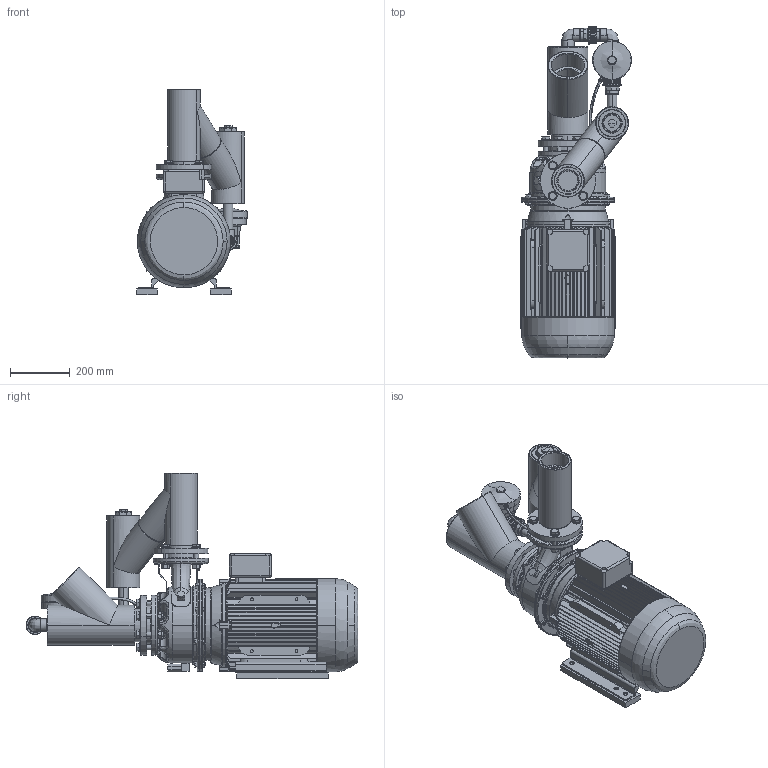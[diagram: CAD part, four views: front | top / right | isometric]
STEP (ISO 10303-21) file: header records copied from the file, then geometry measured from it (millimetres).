
FILE_DESCRIPTION (( 'STEP AP203' ), '1' );
FILE_NAME ('Lowara SHE 65-200 z.a.z auto.by-pass.STEP', '2011-04-07T12:44:03', ( '' ), ( '' ), 'SwSTEP 2.0', 'SolidWorks 2010', '' );
FILE_SCHEMA (( 'CONFIG_CONTROL_DESIGN' ));
Products named in the file (1): Lowara SHE 65-200 z.a.z auto.by-pass
Bounding box: 372 x 1113.45 x 690.24 mm (x, y, z)
Volume: 52886373.9 mm3; surface area: 3781039 mm2
Topology: 87 solids, 93 shells, 3361 faces, 8327 edges, 5190 vertices
Faces by surface type: plane 1266, cylinder 1000, cone 606, bspline 441, torus 48
Entity records: 136632 total; most frequent: CARTESIAN_POINT 60757, ORIENTED_EDGE 16488, DIRECTION 15094, EDGE_CURVE 8244, AXIS2_PLACEMENT_3D 6053, VERTEX_POINT 5195, EDGE_LOOP 3705, FACE_OUTER_BOUND 3362
